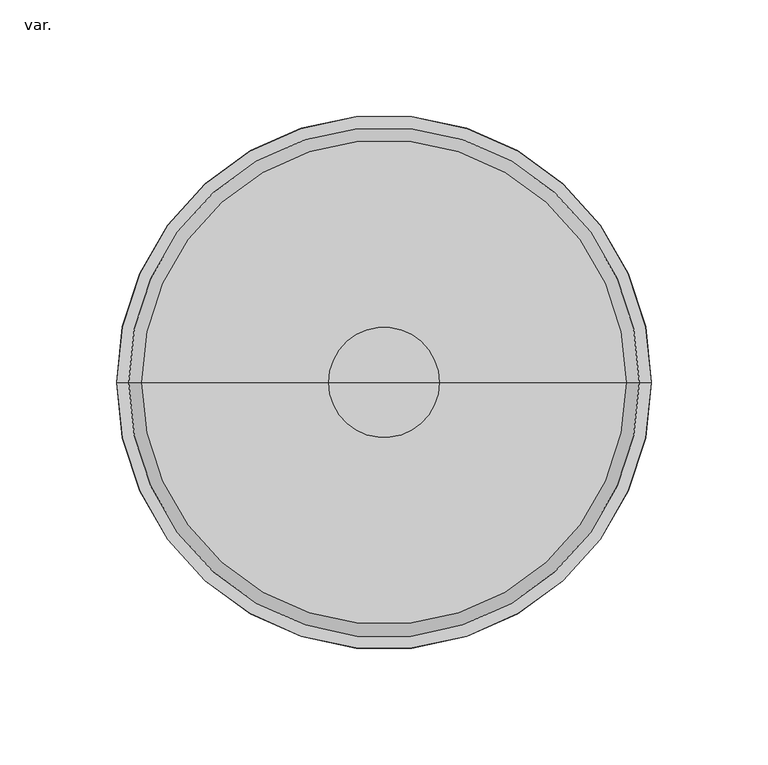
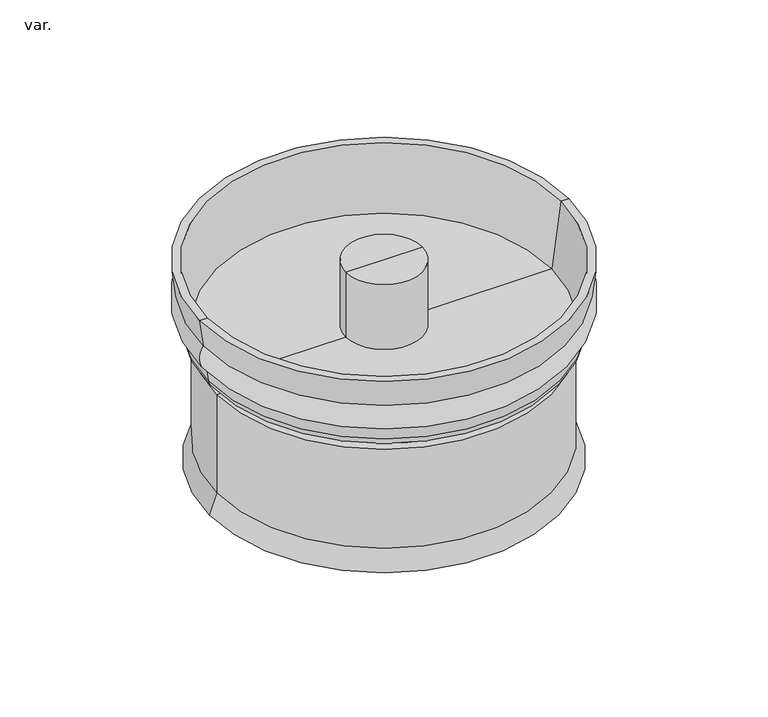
"""IFC4 building model written with IfcOpenShell, lengths in millimetres: pipe fitting geometry, AmancoWavin_ConexõesdeTubos_SaneamentoEsgotoNãoUsarTampãoparaTIL : var.."""

from ifc_helpers import new_model, si_unit, point, frame, origin, place, context, project, spatial, polyline, circle_curve, ellipse_curve, trimmed, source, transform, mapped, element, save
from ifc_brep_helpers import plane_surface, cylinder_surface, revolved_surface, advanced_brep


def var_27db69a4(model_context):
    return source(origin(), model_context, "Body", "AdvancedBrep", [
        advanced_brep(
        [(108.4, 0.0, 0.0), (-108.4, 0.0, 0.0), (-103.75, 0.0, 12.77577), (103.75, 0.0, 12.77577), (105.7395556, 0.0, 0.0), (-105.7395556, 0.0, 0.0), (101.25, 0.0, 12.3349525), (-101.25, 0.0, 12.3349525), (101.25, 0.0, 75.2), (-101.25, 0.0, 75.2), (95.25, 0.0, 75.2), (-95.25, 0.0, 75.2), (95.25, 0.0, 84.8626384), (-95.25, 0.0, 84.8626384), (109.6, 0.0, 129.8782388), (-109.6, 0.0, 129.8782388), (-104.0717917, 0.0, 87.3626384), (104.0717917, 0.0, 87.3626384), (112.2597578, 0.0, 112.5782388), (-112.2597578, 0.0, 112.5782388), (-114.6, 0.0, 129.8782388), (114.6, 0.0, 129.8782388), (109.9484412, 0.0, 95.4333324), (-109.9484412, 0.0, 95.4333324), (97.75, 0.0, 77.7), (-97.75, 0.0, 77.7), (-97.75, 0.0, 82.3626384), (97.75, 0.0, 82.3626384), (103.75, 0.0, 77.7), (-103.75, 0.0, 77.7), (109.0989044, 0.0, 88.5081402), (-109.0989044, 0.0, 88.5081402), (102.6433558, 0.0, 82.3626384), (-102.6433558, 0.0, 82.3626384), (0.0, 0.0, 84.8626384), (23.7, 0.0, 129.8782388), (-23.7, 0.0, 129.8782388), (0.0, 0.0, 129.8782388), (23.7, 0.0, 87.3626384), (-23.7, 0.0, 87.3626384)],
        [
            (0, 1, circle_curve(frame((0.0, 0.0, 0.0), z_axis=(0.0, 0.0, 1.0), x_axis=(-1.0, 0.0, 0.0)), 108.4)),
            (1, 2),
            (2, 3, circle_curve(frame((0.0, 0.0, 12.77577), z_axis=(0.0, 0.0, -1.0), x_axis=(-1.0, 0.0, 0.0)), 103.75)),
            (3, 0),
            (1, 0, circle_curve(frame((0.0, 0.0, 0.0), z_axis=(0.0, 0.0, 1.0), x_axis=(-1.0, 0.0, 0.0)), 108.4)),
            (3, 2, circle_curve(frame((0.0, 0.0, 12.77577), z_axis=(0.0, 0.0, -1.0), x_axis=(-1.0, 0.0, 0.0)), 103.75)),
            (4, 5, circle_curve(frame((0.0, 0.0, 0.0), z_axis=(0.0, 0.0, 1.0), x_axis=(-1.0, 0.0, 0.0)), 105.7395556)),
            (5, 1),
            (0, 4),
            (5, 4, circle_curve(frame((0.0, 0.0, 0.0), z_axis=(0.0, 0.0, 1.0), x_axis=(-1.0, 0.0, 0.0)), 105.7395556)),
            (6, 7, circle_curve(frame((0.0, 0.0, 12.3349525), z_axis=(0.0, 0.0, 1.0), x_axis=(-1.0, 0.0, 0.0)), 101.25)),
            (7, 5),
            (4, 6),
            (7, 6, circle_curve(frame((0.0, 0.0, 12.3349525), z_axis=(0.0, 0.0, 1.0), x_axis=(-1.0, 0.0, 0.0)), 101.25)),
            (8, 9, circle_curve(frame((0.0, 0.0, 75.2), z_axis=(0.0, 0.0, 1.0), x_axis=(-1.0, 0.0, 0.0)), 101.25)),
            (9, 7),
            (6, 8),
            (9, 8, circle_curve(frame((0.0, 0.0, 75.2), z_axis=(0.0, 0.0, 1.0), x_axis=(-1.0, 0.0, 0.0)), 101.25)),
            (10, 11, circle_curve(frame((0.0, 0.0, 75.2), z_axis=(0.0, 0.0, 1.0), x_axis=(-1.0, 0.0, 0.0)), 95.25)),
            (11, 9),
            (8, 10),
            (11, 10, circle_curve(frame((0.0, 0.0, 75.2), z_axis=(0.0, 0.0, 1.0), x_axis=(-1.0, 0.0, 0.0)), 95.25)),
            (12, 13, circle_curve(frame((0.0, 0.0, 84.8626384), z_axis=(0.0, 0.0, 1.0), x_axis=(-1.0, 0.0, 0.0)), 95.25)),
            (13, 11),
            (10, 12),
            (13, 12, circle_curve(frame((0.0, 0.0, 84.8626384), z_axis=(0.0, 0.0, 1.0), x_axis=(-1.0, 0.0, 0.0)), 95.25)),
            (14, 15, circle_curve(frame((0.0, 0.0, 129.8782388), z_axis=(0.0, 0.0, 1.0), x_axis=(-1.0, 0.0, 0.0)), 109.6)),
            (15, 16),
            (16, 17, circle_curve(frame((0.0, 0.0, 87.3626384), z_axis=(0.0, 0.0, -1.0), x_axis=(-1.0, 0.0, 0.0)), 104.0717917)),
            (17, 14),
            (15, 14, circle_curve(frame((0.0, 0.0, 129.8782388), z_axis=(0.0, 0.0, 1.0), x_axis=(-1.0, 0.0, 0.0)), 109.6)),
            (17, 16, circle_curve(frame((0.0, 0.0, 87.3626384), z_axis=(0.0, 0.0, -1.0), x_axis=(-1.0, 0.0, 0.0)), 104.0717917)),
            (18, 19, circle_curve(frame((0.0, 0.0, 112.5782388), z_axis=(0.0, 0.0, 1.0), x_axis=(-1.0, 0.0, 0.0)), 112.2597578)),
            (19, 20),
            (20, 21, circle_curve(frame((0.0, 0.0, 129.8782388), z_axis=(0.0, 0.0, -1.0), x_axis=(-1.0, 0.0, 0.0)), 114.6)),
            (21, 18),
            (19, 18, circle_curve(frame((0.0, 0.0, 112.5782388), z_axis=(0.0, 0.0, 1.0), x_axis=(-1.0, 0.0, 0.0)), 112.2597578)),
            (21, 20, circle_curve(frame((0.0, 0.0, 129.8782388), z_axis=(0.0, 0.0, -1.0), x_axis=(-1.0, 0.0, 0.0)), 114.6)),
            (22, 23, circle_curve(frame((0.0, 0.0, 95.4333324), z_axis=(0.0, 0.0, 1.0), x_axis=(-1.0, 0.0, 0.0)), 109.9484412)),
            (23, 19, circle_curve(frame((-102.6261915, 0.0, 105.1486982), z_axis=(0.0, 1.0, 0.0), x_axis=(1.0, 0.0, 0.0)), 12.1656761)),
            (18, 22, circle_curve(frame((102.6261915, 0.0, 105.1486982), z_axis=(0.0, 1.0, 0.0), x_axis=(-1.0, 0.0, 0.0)), 12.1656761)),
            (23, 22, circle_curve(frame((0.0, 0.0, 95.4333324), z_axis=(0.0, 0.0, 1.0), x_axis=(-1.0, 0.0, 0.0)), 109.9484412)),
            (24, 25, circle_curve(frame((0.0, 0.0, 77.7), z_axis=(0.0, 0.0, 1.0), x_axis=(-1.0, 0.0, 0.0)), 97.75)),
            (25, 26),
            (26, 27, circle_curve(frame((0.0, 0.0, 82.3626384), z_axis=(0.0, 0.0, -1.0), x_axis=(-1.0, 0.0, 0.0)), 97.75)),
            (27, 24),
            (25, 24, circle_curve(frame((0.0, 0.0, 77.7), z_axis=(0.0, 0.0, 1.0), x_axis=(-1.0, 0.0, 0.0)), 97.75)),
            (27, 26, circle_curve(frame((0.0, 0.0, 82.3626384), z_axis=(0.0, 0.0, -1.0), x_axis=(-1.0, 0.0, 0.0)), 97.75)),
            (28, 29, circle_curve(frame((0.0, 0.0, 77.7), z_axis=(0.0, 0.0, 1.0), x_axis=(-1.0, 0.0, 0.0)), 103.75)),
            (29, 25),
            (24, 28),
            (29, 28, circle_curve(frame((0.0, 0.0, 77.7), z_axis=(0.0, 0.0, 1.0), x_axis=(-1.0, 0.0, 0.0)), 103.75)),
            (2, 29),
            (28, 3),
            (30, 31, circle_curve(frame((0.0, 0.0, 88.5081402), z_axis=(0.0, 0.0, 1.0), x_axis=(-1.0, 0.0, 0.0)), 109.0989044)),
            (31, 23),
            (22, 30),
            (31, 30, circle_curve(frame((0.0, 0.0, 88.5081402), z_axis=(0.0, 0.0, 1.0), x_axis=(-1.0, 0.0, 0.0)), 109.0989044)),
            (32, 33, circle_curve(frame((0.0, 0.0, 82.3626384), z_axis=(0.0, 0.0, 1.0), x_axis=(-1.0, 0.0, 0.0)), 102.6433558)),
            (33, 31, circle_curve(frame((-102.6433558, 0.0, 88.8260082), z_axis=(0.0, 1.0, 0.0), x_axis=(1.0, 0.0, 0.0)), 6.4633698)),
            (30, 32, circle_curve(frame((102.6433558, 0.0, 88.8260082), z_axis=(0.0, 1.0, 0.0), x_axis=(-1.0, 0.0, 0.0)), 6.4633698)),
            (33, 32, circle_curve(frame((0.0, 0.0, 82.3626384), z_axis=(0.0, 0.0, 1.0), x_axis=(-1.0, 0.0, 0.0)), 102.6433558)),
            (26, 33),
            (32, 27),
            (34, 13),
            (12, 34),
            (35, 36, circle_curve(frame((0.0, 0.0, 129.8782388), z_axis=(0.0, 0.0, 1.0), x_axis=(-1.0, 0.0, 0.0)), 23.7)),
            (36, 37),
            (37, 35),
            (36, 35, circle_curve(frame((0.0, 0.0, 129.8782388), z_axis=(0.0, 0.0, 1.0), x_axis=(-1.0, 0.0, 0.0)), 23.7)),
            (38, 39, circle_curve(frame((0.0, 0.0, 87.3626384), z_axis=(0.0, 0.0, 1.0), x_axis=(-1.0, 0.0, 0.0)), 23.7)),
            (39, 36),
            (35, 38),
            (39, 38, circle_curve(frame((0.0, 0.0, 87.3626384), z_axis=(0.0, 0.0, 1.0), x_axis=(-1.0, 0.0, 0.0)), 23.7)),
            (16, 39),
            (38, 17),
            (20, 15),
            (14, 21),
        ],
        [
            revolved_surface(polyline([(-103.75, 0.0, 12.77577), (-108.4, 0.0, 0.0)]), (0.0, 0.0, 2186.604311), (0.0, 0.0, -1.0)),
            plane_surface(frame((0.0, 0.0, 0.0), z_axis=(0.0, 0.0, -1.0), x_axis=(-1.0, 0.0, 0.0))),
            revolved_surface(polyline([(-105.7395556, 0.0, 0.0), (-101.25, 0.0, 12.3349525)]), (0.0, 0.0, 2186.604311), (0.0, 0.0, -1.0)),
            revolved_surface(polyline([(-101.25, 0.0, 12.334952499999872), (-101.25, 0.0, 75.19999999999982)]), (0.0, 0.0, 2186.604311), (0.0, 0.0, -1.0)),
            plane_surface(frame((0.0, 0.0, 75.2), z_axis=(0.0, 0.0, -1.0), x_axis=(-1.0, 0.0, 0.0))),
            revolved_surface(polyline([(-95.25, 0.0, 75.19999999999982), (-95.25, 0.0, 84.86263839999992)]), (0.0, 0.0, 2186.604311), (0.0, 0.0, -1.0)),
            revolved_surface(polyline([(-104.0717917, 0.0, 87.3626384), (-109.6, 0.0, 129.8782388)]), (0.0, 0.0, 2186.604311), (0.0, 0.0, -1.0)),
            revolved_surface(polyline([(-114.6, 0.0, 129.8782388), (-112.2597578, 0.0, 112.5782388)]), (0.0, 0.0, 2186.604311), (0.0, 0.0, -1.0)),
            revolved_surface(trimmed(ellipse_curve(frame((-102.6261915, 0.0, 105.1486982), z_axis=(0.0, -1.0, 0.0), x_axis=(1.0, 0.0, 0.0)), 12.1656761, 12.1656761), [point((-112.2597578, 0.0, 112.5782388))], [point((-109.9484412, 0.0, 95.4333324))], True, "CARTESIAN"), (0.0, 0.0, 2186.604311), (0.0, 0.0, -1.0)),
            cylinder_surface(frame((0.0, 0.0, 2186.604311), z_axis=(0.0, 0.0, -1.0), x_axis=(-1.0, 0.0, 0.0)), 97.75),
            plane_surface(frame((0.0, 0.0, 77.7), z_axis=(0.0, 0.0, 1.0), x_axis=(-1.0, 0.0, 0.0))),
            cylinder_surface(frame((0.0, 0.0, 2186.604311), z_axis=(0.0, 0.0, -1.0), x_axis=(-1.0, 0.0, 0.0)), 103.75),
            revolved_surface(polyline([(-109.9484412, 0.0, 95.4333324), (-109.0989044, 0.0, 88.5081402)]), (0.0, 0.0, 2186.604311), (0.0, 0.0, -1.0)),
            revolved_surface(trimmed(ellipse_curve(frame((-102.6433558, 0.0, 88.8260082), z_axis=(0.0, -1.0, 0.0), x_axis=(1.0, 0.0, 0.0)), 6.4633698, 6.4633698), [point((-109.0989044, 0.0, 88.5081402))], [point((-102.6433558, 0.0, 82.3626384))], True, "CARTESIAN"), (0.0, 0.0, 2186.604311), (0.0, 0.0, -1.0)),
            plane_surface(frame((0.0, 0.0, 82.3626384), z_axis=(0.0, 0.0, -1.0), x_axis=(-1.0, 0.0, 0.0))),
            plane_surface(frame((0.0, 0.0, 84.8626384), z_axis=(0.0, 0.0, -1.0), x_axis=(-1.0, 0.0, 0.0))),
            plane_surface(frame((0.0, 0.0, 129.8782388), z_axis=(0.0, 0.0, 1.0), x_axis=(-1.0, 0.0, 0.0))),
            cylinder_surface(frame((0.0, 0.0, 2186.604311), z_axis=(0.0, 0.0, -1.0), x_axis=(-1.0, 0.0, 0.0)), 23.7),
            plane_surface(frame((0.0, 0.0, 87.3626384), z_axis=(0.0, 0.0, 1.0), x_axis=(-1.0, 0.0, 0.0))),
        ],
        [
            (0, [[1, 2, 3, 4]]),
            (0, [[5, -4, 6, -2]]),
            (1, [[7, 8, -1, 9]]),
            (1, [[10, -9, -5, -8]]),
            (2, [[11, 12, -7, 13]]),
            (2, [[14, -13, -10, -12]]),
            (3, [[15, 16, -11, 17]]),
            (3, [[18, -17, -14, -16]]),
            (4, [[19, 20, -15, 21]]),
            (4, [[22, -21, -18, -20]]),
            (5, [[23, 24, -19, 25]]),
            (5, [[26, -25, -22, -24]]),
            (6, [[27, 28, 29, 30]]),
            (6, [[31, -30, 32, -28]]),
            (7, [[33, 34, 35, 36]]),
            (7, [[37, -36, 38, -34]]),
            (8, [[39, 40, -33, 41]]),
            (8, [[42, -41, -37, -40]]),
            (9, [[43, 44, 45, 46]]),
            (9, [[47, -46, 48, -44]]),
            (10, [[49, 50, -43, 51]]),
            (10, [[52, -51, -47, -50]]),
            (11, [[-3, 53, -49, 54]]),
            (11, [[-6, -54, -52, -53]]),
            (12, [[55, 56, -39, 57]]),
            (12, [[58, -57, -42, -56]]),
            (13, [[59, 60, -55, 61]]),
            (13, [[62, -61, -58, -60]]),
            (14, [[-45, 63, -59, 64]]),
            (14, [[-48, -64, -62, -63]]),
            (15, [[65, -23, 66]]),
            (15, [[-66, -26, -65]]),
            (16, [[67, 68, 69]]),
            (16, [[70, -69, -68]]),
            (17, [[71, 72, -67, 73]]),
            (17, [[74, -73, -70, -72]]),
            (18, [[-29, 75, -71, 76]]),
            (18, [[-32, -76, -74, -75]]),
            (16, [[-35, 77, -27, 78]]),
            (16, [[-38, -78, -31, -77]]),
        ],
    ),
    ])


if __name__ == "__main__":
    model = new_model("IFC4")
    model_context = context("Model", 3, world=origin())
    ifc_project = project(units=[si_unit("LENGTHUNIT", "METRE", prefix="MILLI")], contexts=[model_context])
    site = spatial("IfcSite", under=ifc_project)
    building = spatial("IfcBuilding", under=site)
    placement = place(None, origin())
    var_shape = var_27db69a4(model_context)
    element("IfcPipeFitting", 1, ObjectType="AmancoWavin_ConexõesdeTubos_SaneamentoEsgotoNãoUsarTampãoparaTIL : var.", at=placement, inside=building, context=model_context, shape_type="MappedRepresentation", body=[
        mapped(var_shape, transform((0.0, 0.0, 0.0), x_axis=(1.0, 0.0, 0.0), y_axis=(0.0, 1.0, 0.0), z_axis=(0.0, 0.0, 1.0))),
    ])
    save(model, "model.ifc")
